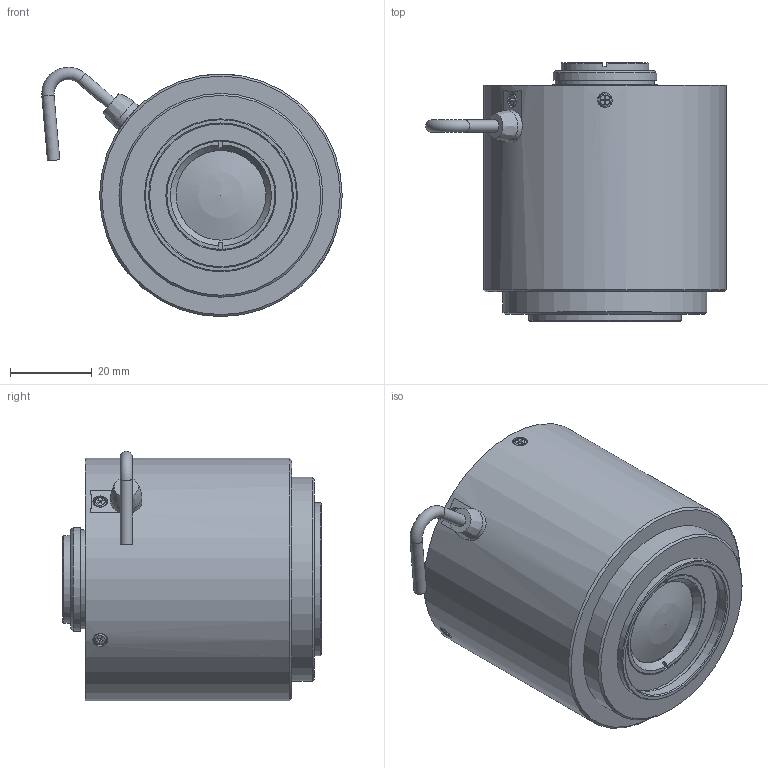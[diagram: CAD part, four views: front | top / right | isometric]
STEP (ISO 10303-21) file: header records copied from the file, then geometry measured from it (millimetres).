
FILE_DESCRIPTION(('STEP AP214'),'1');
FILE_NAME('DL1224UC-MPY.stp','2023-08-24T06:35:11',(' '),(' '),'Spatial InterOp 3D',' ',' ');
FILE_SCHEMA(('AUTOMOTIVE_DESIGN { 1 0 10303 214 1 1 1 1 }'));
Length unit declared in the file: metre
Products named in the file (2): DL1224UC-MPY; Component1
Assembly tree (1 placements, depth 2):
  DL1224UC-MPY
    Component1
Bounding box: 73.68 x 63.38 x 61.13 mm (x, y, z)
Volume: 152022.5 mm3; surface area: 17728.9 mm2
Topology: 1 solids, 6 shells, 293 faces, 714 edges, 470 vertices
Faces by surface type: plane 205, cylinder 53, cone 23, torus 9, sphere 2, bspline 1
Full cylindrical faces by diameter (mm): 2 x4, 2.2 x4, 3 x10, 3.6 x4, 3.8 x4, 7.699 x1, 13.6 x1, 14.221 x1, 21.5 x1, 22 x1, 24.3 x1, 25.4 x1, 29 x1, 35 x1, 35.5 x1, 37.5 x1, 50 x1, 59.5 x1
Entity records: 10670 total; most frequent: CARTESIAN_POINT 1649, DIRECTION 1341, ORIENTED_EDGE 1262, EDGE_CURVE 631, LINE 477, VECTOR 477, VERTEX_POINT 453, AXIS2_PLACEMENT_3D 432
